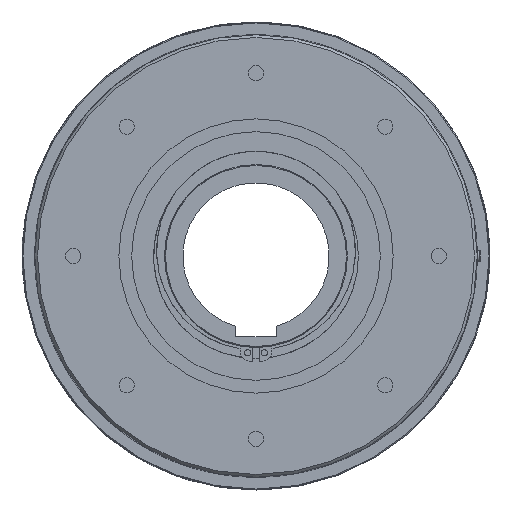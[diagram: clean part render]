
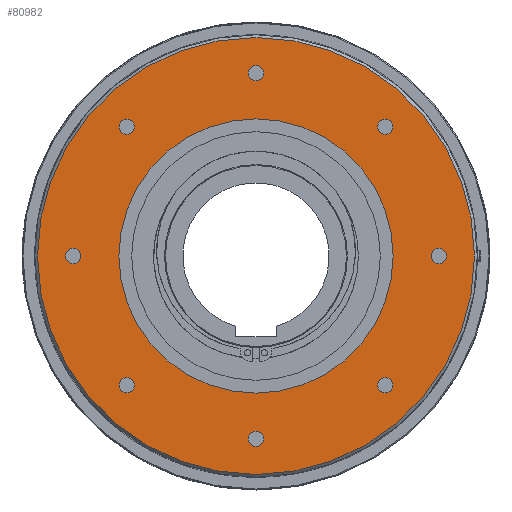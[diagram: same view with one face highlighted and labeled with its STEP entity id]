
A CAD part, left-side view. The second image highlights one B-rep face of the part: STEP entity #80982.
In plain terms, the highlighted planar face has unit normal (-1, 0, 0).
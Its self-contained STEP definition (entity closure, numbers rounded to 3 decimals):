
#13643=FACE_BOUND('',#21926,.T.);
#13644=FACE_BOUND('',#21927,.T.);
#13645=FACE_BOUND('',#21928,.T.);
#13646=FACE_BOUND('',#21929,.T.);
#13647=FACE_BOUND('',#21930,.T.);
#13648=FACE_BOUND('',#21931,.T.);
#13649=FACE_BOUND('',#21932,.T.);
#13650=FACE_BOUND('',#21933,.T.);
#13651=FACE_BOUND('',#21934,.T.);
#17715=FACE_OUTER_BOUND('',#21925,.T.);
#21925=EDGE_LOOP('',(#68388));
#21926=EDGE_LOOP('',(#68389));
#21927=EDGE_LOOP('',(#68390));
#21928=EDGE_LOOP('',(#68391));
#21929=EDGE_LOOP('',(#68392));
#21930=EDGE_LOOP('',(#68393));
#21931=EDGE_LOOP('',(#68394));
#21932=EDGE_LOOP('',(#68395));
#21933=EDGE_LOOP('',(#68396));
#21934=EDGE_LOOP('',(#68397));
#25249=CIRCLE('',#92572,0.165);
#25251=CIRCLE('',#92575,0.165);
#25253=CIRCLE('',#92578,0.165);
#25255=CIRCLE('',#92581,0.165);
#25257=CIRCLE('',#92584,0.165);
#25259=CIRCLE('',#92587,0.165);
#25261=CIRCLE('',#92590,0.165);
#25263=CIRCLE('',#92593,0.165);
#25265=CIRCLE('',#92596,4.705);
#25266=CIRCLE('',#92598,2.953);
#33378=VERTEX_POINT('',#169767);
#33380=VERTEX_POINT('',#169773);
#33382=VERTEX_POINT('',#169779);
#33384=VERTEX_POINT('',#169785);
#33386=VERTEX_POINT('',#169791);
#33388=VERTEX_POINT('',#169797);
#33390=VERTEX_POINT('',#169803);
#33392=VERTEX_POINT('',#169809);
#33394=VERTEX_POINT('',#169815);
#33395=VERTEX_POINT('',#169819);
#45520=EDGE_CURVE('',#33378,#33378,#25249,.T.);
#45523=EDGE_CURVE('',#33380,#33380,#25251,.T.);
#45526=EDGE_CURVE('',#33382,#33382,#25253,.T.);
#45529=EDGE_CURVE('',#33384,#33384,#25255,.T.);
#45532=EDGE_CURVE('',#33386,#33386,#25257,.T.);
#45535=EDGE_CURVE('',#33388,#33388,#25259,.T.);
#45538=EDGE_CURVE('',#33390,#33390,#25261,.T.);
#45541=EDGE_CURVE('',#33392,#33392,#25263,.T.);
#45545=EDGE_CURVE('',#33394,#33394,#25265,.T.);
#45546=EDGE_CURVE('',#33395,#33395,#25266,.T.);
#68388=ORIENTED_EDGE('',*,*,#45545,.F.);
#68389=ORIENTED_EDGE('',*,*,#45520,.T.);
#68390=ORIENTED_EDGE('',*,*,#45523,.T.);
#68391=ORIENTED_EDGE('',*,*,#45526,.T.);
#68392=ORIENTED_EDGE('',*,*,#45529,.T.);
#68393=ORIENTED_EDGE('',*,*,#45532,.T.);
#68394=ORIENTED_EDGE('',*,*,#45535,.T.);
#68395=ORIENTED_EDGE('',*,*,#45538,.T.);
#68396=ORIENTED_EDGE('',*,*,#45541,.T.);
#68397=ORIENTED_EDGE('',*,*,#45546,.T.);
#72864=PLANE('',#92597);
#80982=ADVANCED_FACE('',(#17715,#13643,#13644,#13645,#13646,#13647,#13648,
#13649,#13650,#13651),#72864,.T.);
#92572=AXIS2_PLACEMENT_3D('',#169768,#119293,#119294);
#92575=AXIS2_PLACEMENT_3D('',#169774,#119300,#119301);
#92578=AXIS2_PLACEMENT_3D('',#169780,#119307,#119308);
#92581=AXIS2_PLACEMENT_3D('',#169786,#119314,#119315);
#92584=AXIS2_PLACEMENT_3D('',#169792,#119321,#119322);
#92587=AXIS2_PLACEMENT_3D('',#169798,#119328,#119329);
#92590=AXIS2_PLACEMENT_3D('',#169804,#119335,#119336);
#92593=AXIS2_PLACEMENT_3D('',#169810,#119342,#119343);
#92596=AXIS2_PLACEMENT_3D('',#169817,#119350,#119351);
#92597=AXIS2_PLACEMENT_3D('',#169818,#119352,#119353);
#92598=AXIS2_PLACEMENT_3D('',#169820,#119354,#119355);
#119293=DIRECTION('center_axis',(1.,0.,0.));
#119294=DIRECTION('ref_axis',(0.,0.,
-1.));
#119300=DIRECTION('center_axis',(1.,0.,0.));
#119301=DIRECTION('ref_axis',(0.,0.,
-1.));
#119307=DIRECTION('center_axis',(1.,0.,0.));
#119308=DIRECTION('ref_axis',(0.,0.,
-1.));
#119314=DIRECTION('center_axis',(1.,0.,0.));
#119315=DIRECTION('ref_axis',(0.,0.,
-1.));
#119321=DIRECTION('center_axis',(1.,0.,0.));
#119322=DIRECTION('ref_axis',(0.,0.,
-1.));
#119328=DIRECTION('center_axis',(1.,0.,0.));
#119329=DIRECTION('ref_axis',(0.,0.,
-1.));
#119335=DIRECTION('center_axis',(1.,0.,0.));
#119336=DIRECTION('ref_axis',(0.,0.,
-1.));
#119342=DIRECTION('center_axis',(1.,0.,0.));
#119343=DIRECTION('ref_axis',(0.,0.,
-1.));
#119350=DIRECTION('center_axis',(1.,0.,0.));
#119351=DIRECTION('ref_axis',(0.,1.,0.));
#119352=DIRECTION('center_axis',(-1.,0.,0.));
#119353=DIRECTION('ref_axis',(0.,0.,
-1.));
#119354=DIRECTION('center_axis',(1.,0.,0.));
#119355=DIRECTION('ref_axis',(0.,-1.,0.));
#169767=CARTESIAN_POINT('',(-2.598,-2.784,-2.619));
#169768=CARTESIAN_POINT('Origin',(-2.598,-2.784,-2.784));
#169773=CARTESIAN_POINT('',(-2.598,0.,-3.772));
#169774=CARTESIAN_POINT('Origin',(-2.598,0.,
-3.937));
#169779=CARTESIAN_POINT('',(-2.598,2.784,-2.619));
#169780=CARTESIAN_POINT('Origin',(-2.598,2.784,-2.784));
#169785=CARTESIAN_POINT('',(-2.598,3.937,0.165));
#169786=CARTESIAN_POINT('Origin',(-2.598,3.937,0.));
#169791=CARTESIAN_POINT('',(-2.598,2.784,2.949));
#169792=CARTESIAN_POINT('Origin',(-2.598,2.784,2.784));
#169797=CARTESIAN_POINT('',(-2.598,0.,4.102));
#169798=CARTESIAN_POINT('Origin',(-2.598,0.,
3.937));
#169803=CARTESIAN_POINT('',(-2.598,-2.784,2.949));
#169804=CARTESIAN_POINT('Origin',(-2.598,-2.784,2.784));
#169809=CARTESIAN_POINT('',(-2.598,-3.937,0.165));
#169810=CARTESIAN_POINT('Origin',(-2.598,-3.937,0.));
#169815=CARTESIAN_POINT('',(-2.598,-4.705,0.));
#169817=CARTESIAN_POINT('Origin',(-2.598,0.,
0.));
#169818=CARTESIAN_POINT('Origin',(-2.598,-3.858,0.));
#169819=CARTESIAN_POINT('',(-2.598,2.953,0.));
#169820=CARTESIAN_POINT('Origin',(-2.598,0.,
0.));
